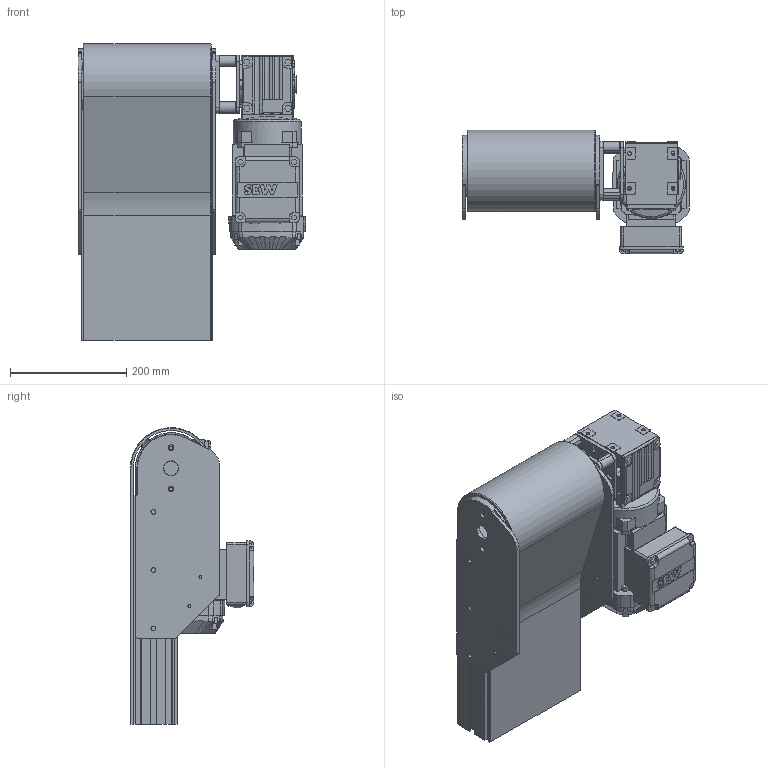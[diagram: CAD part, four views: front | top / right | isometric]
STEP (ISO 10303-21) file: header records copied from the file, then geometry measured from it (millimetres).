
FILE_DESCRIPTION(/* description */ (''),/* implementation_level */ '2;1');
FILE_NAME(/* name */ 'C:\Users\mikael.ljungberg\OneDrive - Carryline AB\Skrivbordet\Tillfalliga_filer\220-30-HLx-2xx.stp',/* time_stamp */ '2021-04-26T07:26:42+02:00',/* author */ ('ML'),/* organization */ (''),/* preprocessor_version */ 'ST-DEVELOPER v18.1',/* originating_system */ 'Autodesk Inventor 2020',/* authorisation */ '');
FILE_SCHEMA (('AUTOMOTIVE_DESIGN { 1 0 10303 214 3 1 1 }'));
Length unit declared in the file: millimetre
Products named in the file (12): 220-30-HLx-2xx; 220-30-HLx-1-XX; Serie 220 Drivände; 220-1000+220-2000-01; 900-3000R; 900-3000L; 900-2100R; 900-2100L; 900-3075; 900-3077; 900-3150; 900-4030
Assembly tree (14 placements, depth 4):
  220-30-HLx-2xx
    220-30-HLx-1-XX
      Serie 220 Drivände
        220-1000+220-2000-01
        900-3000R
        900-3000L
      900-2100R
      900-2100L
      900-3075
      900-3077
      900-3150  x4
    900-4030
Bounding box: 390.41 x 212 x 509.98 mm (x, y, z)
Volume: 12746460.1 mm3; surface area: 1085903.6 mm2
Topology: 12 solids, 14 shells, 1034 faces, 2912 edges, 1937 vertices
Faces by surface type: plane 531, cylinder 392, cone 59, bspline 33, torus 17, sphere 2
Full cylindrical faces by diameter (mm): 5 x8, 6 x9, 6.6 x8, 6.647 x4, 8 x6, 8.5 x8, 10 x8, 20 x1, 25 x1, 26 x3, 28 x1, 30 x2, 37 x1, 45 x2, 117 x1
Entity records: 35568 total; most frequent: CARTESIAN_POINT 8370, DIRECTION 5654, ORIENTED_EDGE 5642, EDGE_CURVE 2821, AXIS2_PLACEMENT_3D 1971, VERTEX_POINT 1880, LINE 1712, VECTOR 1712
